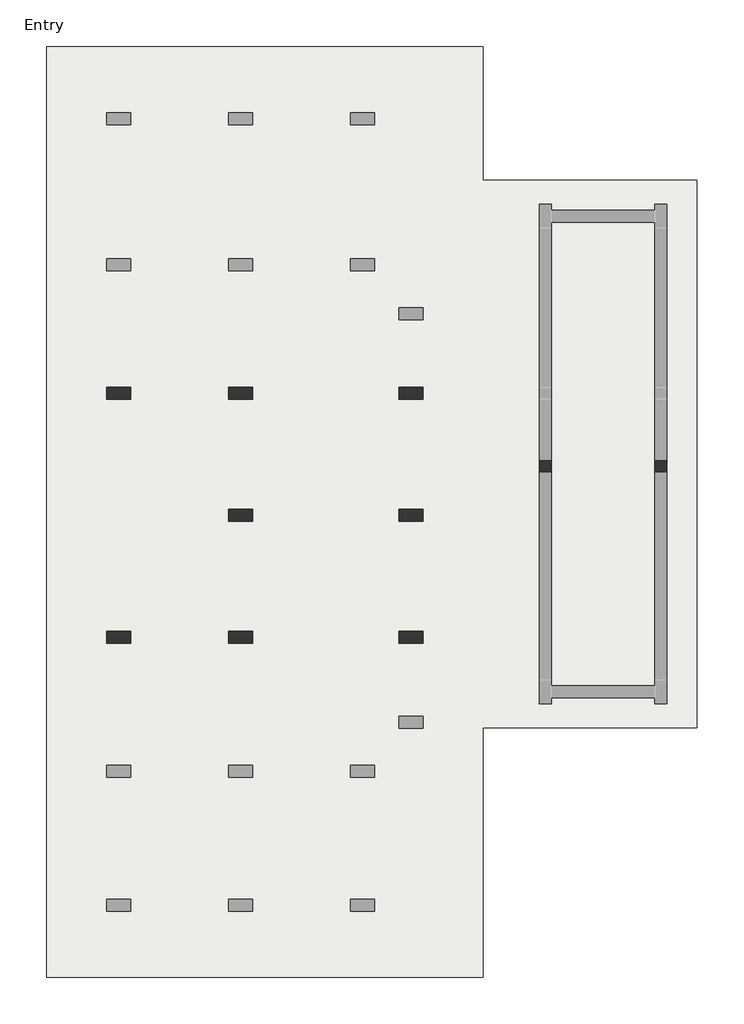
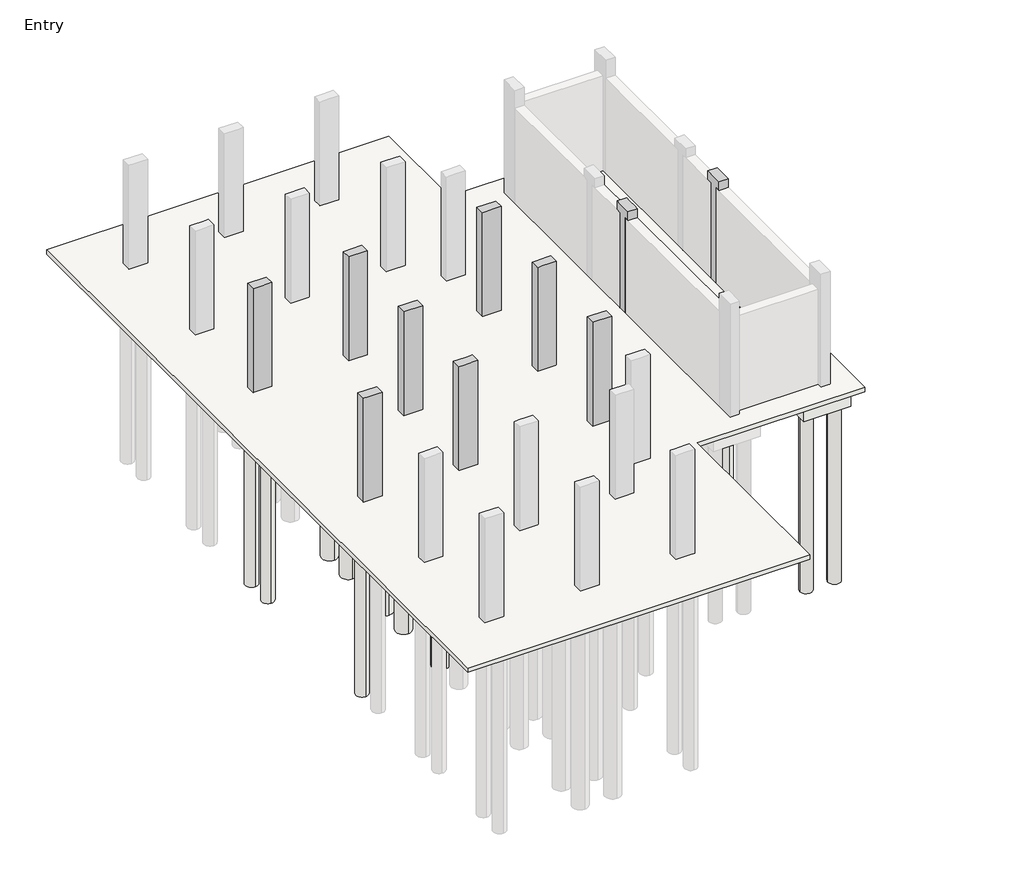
# One storey, part 2 of 3: 37 slabs, 10 columns, 3 footings.
"""IFC4 building model written with IfcOpenShell, lengths in millimetres."""

from ifc_helpers import new_model, si_unit, point, frame, frame_2d, origin, place, context, project, spatial, polyline, circle_curve, trimmed, segment, composite_curve, outline, extrude, faceted_brep, element, save

model = new_model("IFC4")

# Units and contexts
model_context = context("Model", 3, world=origin())
ifc_project = project(units=[si_unit("LENGTHUNIT", "METRE", prefix="MILLI")], contexts=[model_context])

# Site, building, storey
site = spatial("IfcSite", under=ifc_project)
building = spatial("IfcBuilding", under=site)
storey = spatial("IfcBuildingStorey", under=building, Name="Entry", Elevation=0.0)

# Columns
placement = place(None, origin())
element("IfcColumn", 1, ObjectType="M_Concrete-Rectangular-Column : 300 x 600mm", at=placement, inside=storey, context=model_context, shape_type="Brep", body=[
    faceted_brep([(-6997.5526929, 6449.19569, 0.0), (-6397.5526929, 6449.19569, 0.0), (-6397.5526929, 6149.19569, 0.0), (-6997.5526929, 6149.19569, 0.0), (-6997.5526929, 6449.19569, 3505.2), (-6397.5526929, 6449.19569, 3505.2), (-6397.5526929, 6449.19569, 2910.0), (-6997.5526929, 6449.19569, 2910.0), (-6397.5526929, 6149.19569, 3505.2), (-6397.5526929, 6149.19569, 2910.0), (-6997.5526929, 6149.19569, 3505.2), (-6997.5526929, 6149.19569, 2910.0)], [[[0, 1, 2, 3]], [[4, 5, 6, 1, 0, 7]], [[5, 8, 9, 2, 1, 6]], [[8, 10, 11, 3, 2, 9]], [[10, 4, 7, 0, 3, 11]], [[4, 10, 8, 5]]]),
])
element("IfcColumn", 2, ObjectType="M_Concrete-Rectangular-Column : 300 x 600mm", at=placement, inside=storey, context=model_context, shape_type="Brep", body=[
    faceted_brep([(-11264.7526929, 6449.19569, 0.0), (-10664.7526929, 6449.19569, 0.0), (-10664.7526929, 6149.19569, 0.0), (-11264.7526929, 6149.19569, 0.0), (-11264.7526929, 6449.19569, 3505.2), (-10664.7526929, 6449.19569, 3505.2), (-10664.7526929, 6449.19569, 2910.0), (-11264.7526929, 6449.19569, 2910.0), (-10664.7526929, 6149.19569, 3505.2), (-10664.7526929, 6149.19569, 2910.0), (-11264.7526929, 6149.19569, 3505.2), (-11264.7526929, 6149.19569, 2910.0)], [[[0, 1, 2, 3]], [[4, 5, 6, 1, 0, 7]], [[5, 8, 9, 2, 1, 6]], [[8, 10, 11, 3, 2, 9]], [[10, 4, 7, 0, 3, 11]], [[4, 10, 8, 5]]]),
])
element("IfcColumn", 3, ObjectType="M_Concrete-Rectangular-Column : 300 x 600mm", at=placement, inside=storey, context=model_context, shape_type="Brep", body=[
    faceted_brep([(-14312.7526929, 6449.19569, 0.0), (-13712.7526929, 6449.19569, 0.0), (-13712.7526929, 6149.19569, 0.0), (-14312.7526929, 6149.19569, 0.0), (-14312.7526929, 6449.19569, 3505.2), (-14162.7526929, 6449.19569, 3505.2), (-13862.7526929, 6449.19569, 3505.2), (-13712.7526929, 6449.19569, 3505.2), (-13712.7526929, 6449.19569, 2910.0), (-13712.7526929, 6149.19569, 3505.2), (-13712.7526929, 6149.19569, 2910.0), (-14012.7526929, 6149.19569, 3505.2), (-14312.7526929, 6149.19569, 3505.2)], [[[0, 1, 2, 3]], [[4, 5, 6, 7, 8, 1, 0]], [[7, 9, 10, 2, 1, 8]], [[9, 11, 12, 3, 2, 10]], [[12, 4, 0, 3]], [[4, 12, 11, 9, 7, 6, 5]]]),
])
element("IfcColumn", 4, ObjectType="M_Concrete-Rectangular-Column : 300 x 600mm", at=placement, inside=storey, context=model_context, shape_type="Brep", body=[
    faceted_brep([(-3194.7526929, 4320.39569, 0.0), (-3494.7526929, 4320.39569, 0.0), (-3494.7526929, 4620.39569, 0.0), (-3194.7526929, 4620.39569, 0.0), (-3494.7526929, 4320.39569, 2910.0), (-3494.7526929, 4320.39569, 3210.0), (-3494.7526929, 4170.39569, 3210.0), (-3494.7526929, 4170.39569, 3510.0), (-3494.7526929, 4320.39569, 3510.0), (-3494.7526929, 4620.39569, 3510.0), (-3494.7526929, 4770.39569, 3510.0), (-3494.7526929, 4770.39569, 3210.0), (-3494.7526929, 4620.39569, 3210.0), (-3494.7526929, 4620.39569, 2910.0), (-3194.7526929, 4770.39569, 3210.0), (-3194.7526929, 4770.39569, 3510.0), (-3194.7526929, 4320.39569, 3210.0), (-3194.7526929, 4320.39569, 2910.0), (-3194.7526929, 4620.39569, 2910.0), (-3194.7526929, 4620.39569, 3210.0), (-3194.7526929, 4620.39569, 3510.0), (-3194.7526929, 4320.39569, 3510.0), (-3194.7526929, 4170.39569, 3510.0), (-3194.7526929, 4170.39569, 3210.0)], [[[0, 1, 2, 3]], [[1, 4, 5, 6, 7, 8, 9, 10, 11, 12, 13, 2]], [[14, 11, 10, 15]], [[16, 17, 0, 3, 18, 19, 14, 15, 20, 21, 22, 23]], [[6, 23, 22, 7]], [[16, 5, 4, 1, 0, 17]], [[5, 16, 23, 6]], [[19, 12, 11, 14]], [[12, 19, 18, 3, 2, 13]], [[10, 9, 8, 7, 22, 21, 20, 15]]]),
])
element("IfcColumn", 5, ObjectType="M_Concrete-Rectangular-Column : 300 x 600mm", at=placement, inside=storey, context=model_context, shape_type="SweptSolid", body=[
    extrude(outline(polyline([(4620.39569, 3210.0), (4620.39569, 0.0), (4320.39569, 0.0), (4320.39569, 3210.0), (4170.39569, 3210.0), (4170.39569, 3510.0), (4770.39569, 3510.0), (4770.39569, 3210.0), (4620.39569, 3210.0)])), frame((-599.1526929, 0.0, 0.0), z_axis=(1.0, 0.0, 0.0), x_axis=(0.0, 1.0, 0.0)), (0.0, 0.0, 1.0), 300.0),
])
element("IfcColumn", 6, ObjectType="M_Concrete-Rectangular-Column : 300 x 600mm", at=placement, inside=storey, context=model_context, shape_type="Brep", body=[
    faceted_brep([(-6997.5526929, 3401.19569, 0.0), (-6397.5526929, 3401.19569, 0.0), (-6397.5526929, 3101.19569, 0.0), (-6997.5526929, 3101.19569, 0.0), (-6997.5526929, 3401.19569, 3505.2), (-6847.5526929, 3401.19569, 3505.2), (-6547.5526929, 3401.19569, 3505.2), (-6397.5526929, 3401.19569, 3505.2), (-6397.5526929, 3101.19569, 3505.2), (-6547.5526929, 3101.19569, 3505.2), (-6847.5526929, 3101.19569, 3505.2), (-6997.5526929, 3101.19569, 3505.2)], [[[0, 1, 2, 3]], [[4, 5, 6, 7, 1, 0]], [[7, 8, 2, 1]], [[8, 9, 10, 11, 3, 2]], [[11, 4, 0, 3]], [[4, 11, 10, 9, 8, 7, 6, 5]]]),
])
element("IfcColumn", 7, ObjectType="M_Concrete-Rectangular-Column : 300 x 600mm", at=placement, inside=storey, context=model_context, shape_type="Brep", body=[
    faceted_brep([(-11264.7526929, 3401.19569, 0.0), (-10664.7526929, 3401.19569, 0.0), (-10664.7526929, 3101.19569, 0.0), (-11264.7526929, 3101.19569, 0.0), (-11264.7526929, 3401.19569, 3505.2), (-11114.7526929, 3401.19569, 3505.2), (-10814.7526929, 3401.19569, 3505.2), (-10664.7526929, 3401.19569, 3505.2), (-10664.7526929, 3101.19569, 3505.2), (-10814.7526929, 3101.19569, 3505.2), (-11114.7526929, 3101.19569, 3505.2), (-11264.7526929, 3101.19569, 3505.2)], [[[0, 1, 2, 3]], [[4, 5, 6, 7, 1, 0]], [[7, 8, 2, 1]], [[8, 9, 10, 11, 3, 2]], [[11, 4, 0, 3]], [[4, 11, 10, 9, 8, 7, 6, 5]]]),
])
element("IfcColumn", 8, ObjectType="M_Concrete-Rectangular-Column : 300 x 600mm", at=placement, inside=storey, context=model_context, shape_type="Brep", body=[
    faceted_brep([(-14312.7526929, 353.19569, 0.0), (-13712.7526929, 353.19569, 0.0), (-13712.7526929, 53.19569, 0.0), (-14312.7526929, 53.19569, 0.0), (-14312.7526929, 353.19569, 3505.2), (-14012.7526929, 353.19569, 3505.2), (-13712.7526929, 353.19569, 3505.2), (-13712.7526929, 353.19569, 2910.0), (-13712.7526929, 53.19569, 3505.2), (-13712.7526929, 53.19569, 2910.0), (-13862.7526929, 53.19569, 3505.2), (-14162.7526929, 53.19569, 3505.2), (-14312.7526929, 53.19569, 3505.2)], [[[0, 1, 2, 3]], [[4, 5, 6, 7, 1, 0]], [[6, 8, 9, 2, 1, 7]], [[8, 10, 11, 12, 3, 2, 9]], [[12, 4, 0, 3]], [[4, 12, 11, 10, 8, 6, 5]]]),
])
element("IfcColumn", 9, ObjectType="M_Concrete-Rectangular-Column : 300 x 600mm", at=placement, inside=storey, context=model_context, shape_type="Brep", body=[
    faceted_brep([(-11264.7526929, 353.19569, 0.0), (-10664.7526929, 353.19569, 0.0), (-10664.7526929, 53.19569, 0.0), (-11264.7526929, 53.19569, 0.0), (-11264.7526929, 353.19569, 3505.2), (-11114.7526929, 353.19569, 3505.2), (-10814.7526929, 353.19569, 3505.2), (-10664.7526929, 353.19569, 3505.2), (-10664.7526929, 353.19569, 2910.0), (-11264.7526929, 353.19569, 2910.0), (-10664.7526929, 53.19569, 3505.2), (-10664.7526929, 53.19569, 2910.0), (-10814.7526929, 53.19569, 3505.2), (-11114.7526929, 53.19569, 3505.2), (-11264.7526929, 53.19569, 3505.2), (-11264.7526929, 53.19569, 2910.0)], [[[0, 1, 2, 3]], [[4, 5, 6, 7, 8, 1, 0, 9]], [[7, 10, 11, 2, 1, 8]], [[10, 12, 13, 14, 15, 3, 2, 11]], [[14, 4, 9, 0, 3, 15]], [[4, 14, 13, 12, 10, 7, 6, 5]]]),
])
element("IfcColumn", 10, ObjectType="M_Concrete-Rectangular-Column : 300 x 600mm", at=placement, inside=storey, context=model_context, shape_type="Brep", body=[
    faceted_brep([(-6997.5526929, 353.19569, 0.0), (-6397.5526929, 353.19569, 0.0), (-6397.5526929, 53.19569, 0.0), (-6997.5526929, 53.19569, 0.0), (-6997.5526929, 353.19569, 3505.2), (-6847.5526929, 353.19569, 3505.2), (-6547.5526929, 353.19569, 3505.2), (-6397.5526929, 353.19569, 3505.2), (-6997.5526929, 353.19569, 2910.0), (-6397.5526929, 53.19569, 3505.2), (-6547.5526929, 53.19569, 3505.2), (-6847.5526929, 53.19569, 3505.2), (-6997.5526929, 53.19569, 3505.2), (-6997.5526929, 53.19569, 2910.0)], [[[0, 1, 2, 3]], [[4, 5, 6, 7, 1, 0, 8]], [[7, 9, 2, 1]], [[9, 10, 11, 12, 13, 3, 2]], [[12, 4, 8, 0, 3, 13]], [[4, 12, 11, 10, 9, 7, 6, 5]]]),
])

# Footings
element("IfcFooting", 11, ObjectType="Bearing Footing - 900 x 300", at=placement, inside=storey, context=model_context, shape_type="SweptSolid", body=[
    extrude(outline(polyline([(-3794.7526929, 4620.39569), (-3794.7526929, 6149.19569), (-3744.7526929, 6149.19569), (-3744.7526929, 5549.19569), (-2944.7526929, 5549.19569), (-2944.7526929, 6149.19569), (-2894.7526929, 6149.19569), (-2894.7526929, 4620.39569), (-2944.7526929, 4620.39569), (-2944.7526929, 5220.39569), (-3744.7526929, 5220.39569), (-3744.7526929, 4620.39569), (-3794.7526929, 4620.39569)])), frame((0.0, 0.0, -300.0), z_axis=(0.0, 0.0, 1.0), x_axis=(1.0, 0.0, 0.0)), (0.0, 0.0, 1.0), 150.0),
])
element("IfcFooting", 12, ObjectType="Bearing Footing - 900 x 300", at=placement, inside=storey, context=model_context, shape_type="Brep", body=[
    faceted_brep([(-3744.7526929, 4320.39569, -300.0), (-3794.7526929, 4320.39569, -300.0), (-3794.7526929, 4320.39569, -150.0), (-3744.7526929, 4320.39569, -150.0), (-2894.7526929, 4320.39569, -300.0), (-2944.7526929, 4320.39569, -300.0), (-2944.7526929, 4320.39569, -150.0), (-2894.7526929, 4320.39569, -150.0), (-3794.7526929, -768.40431, -300.0), (-3794.7526929, -768.40431, -150.0), (-3744.7526929, 3720.39569, -300.0), (-2944.7526929, 3720.39569, -300.0), (-2894.7526929, -718.40431, -300.0), (-2894.7526929, -768.40431, -300.0), (-2894.7526929, -718.40431, -150.0), (-2894.7526929, -768.40431, -150.0), (-3744.7526929, 3720.39569, -150.0), (-2944.7526929, 3720.39569, -150.0)], [[[0, 1, 2, 3]], [[4, 5, 6, 7]], [[1, 8, 9, 2]], [[1, 0, 10, 11, 5, 4, 12, 13, 8]], [[13, 12, 4, 7, 14, 15]], [[10, 0, 3, 16]], [[11, 10, 16, 17]], [[5, 11, 17, 6]], [[8, 13, 15, 9]], [[3, 2, 9, 15, 14, 7, 6, 17, 16]]]),
])
element("IfcFooting", 13, ObjectType="Bearing Footing - 900 x 300", at=placement, inside=storey, context=model_context, shape_type="SweptSolid", body=[
    extrude(outline(polyline([(-899.1526929, 4320.39569), (-849.1526929, 4320.39569), (-849.1526929, 3720.39569), (-49.1526929, 3720.39569), (-49.1526929, 4320.39569), (0.8473071, 4320.39569), (0.8473071, -768.40431), (-599.1526929, -768.40431), (-599.1526929, -718.40431), (-899.1526929, -718.40431), (-899.1526929, 4320.39569)])), frame((0.0, 0.0, -300.0), z_axis=(0.0, 0.0, 1.0), x_axis=(1.0, 0.0, 0.0)), (0.0, 0.0, 1.0), 150.0),
])

# Slabs
element("IfcSlab", 14, ObjectType="150mm Foundation Slab", at=placement, inside=storey, context=model_context, shape_type="SweptSolid", body=[
    extrude(outline(polyline([(-4897.5526929, 14957.19569), (-4897.5526929, 11618.79569), (450.8473071, 11618.79569), (450.8473071, -2068.40431), (-4897.5526929, -2068.40431), (-4897.5526929, -8302.40431), (-15812.7526929, -8302.40431), (-15812.7526929, 14957.19569), (-4897.5526929, 14957.19569)])), frame((0.0, 0.0, -150.0), z_axis=(0.0, 0.0, 1.0), x_axis=(1.0, 0.0, 0.0)), (0.0, 0.0, 1.0), 150.0),
])
element("IfcSlab", 15, ObjectType="M_Pile Cap-2 Pile : 800 x 1500 x 900mm", at=placement, inside=storey, context=model_context, shape_type="SweptSolid", body=[
    extrude(outline(polyline([(-14412.7526929, 7049.19569), (-13612.7526929, 7049.19569), (-13612.7526929, 5549.19569), (-14412.7526929, 5549.19569), (-14412.7526929, 7049.19569)])), frame((0.0, 0.0, -900.0), z_axis=(0.0, 0.0, 1.0), x_axis=(1.0, 0.0, 0.0)), (0.0, 0.0, 1.0), 750.0),
])
element("IfcSlab", 16, ObjectType="M_Pile Cap-2 Pile : 800 x 1500 x 900mm", at=placement, inside=storey, context=model_context, shape_type="SweptSolid", body=[
    extrude(outline(polyline([(-7097.5526929, 7049.19569), (-6297.5526929, 7049.19569), (-6297.5526929, 5549.19569), (-7097.5526929, 5549.19569), (-7097.5526929, 7049.19569)])), frame((0.0, 0.0, -900.0), z_axis=(0.0, 0.0, 1.0), x_axis=(1.0, 0.0, 0.0)), (0.0, 0.0, 1.0), 750.0),
])
element("IfcSlab", 17, ObjectType="M_Pile Cap-2 Pile : 800 x 1500 x 900mm", at=placement, inside=storey, context=model_context, shape_type="SweptSolid", body=[
    extrude(outline(polyline([(-7097.5526929, 4001.19569), (-6297.5526929, 4001.19569), (-6297.5526929, 2501.19569), (-7097.5526929, 2501.19569), (-7097.5526929, 4001.19569)])), frame((0.0, 0.0, -900.0), z_axis=(0.0, 0.0, 1.0), x_axis=(1.0, 0.0, 0.0)), (0.0, 0.0, 1.0), 750.0),
])
element("IfcSlab", 18, ObjectType="M_Pile Cap-2 Pile : 800 x 1500 x 900mm", at=placement, inside=storey, context=model_context, shape_type="SweptSolid", body=[
    extrude(outline(polyline([(-7097.5526929, 953.19569), (-6297.5526929, 953.19569), (-6297.5526929, -546.80431), (-7097.5526929, -546.80431), (-7097.5526929, 953.19569)])), frame((0.0, 0.0, -900.0), z_axis=(0.0, 0.0, 1.0), x_axis=(1.0, 0.0, 0.0)), (0.0, 0.0, 1.0), 750.0),
])
element("IfcSlab", 19, ObjectType="M_Pile Cap-2 Pile : 800 x 1500 x 900mm", at=placement, inside=storey, context=model_context, shape_type="SweptSolid", body=[
    extrude(outline(polyline([(-14412.7526929, 953.19569), (-13612.7526929, 953.19569), (-13612.7526929, -546.80431), (-14412.7526929, -546.80431), (-14412.7526929, 953.19569)])), frame((0.0, 0.0, -900.0), z_axis=(0.0, 0.0, 1.0), x_axis=(1.0, 0.0, 0.0)), (0.0, 0.0, 1.0), 750.0),
])
element("IfcSlab", 20, ObjectType="M_Pile Cap-2 Pile : 800 x 1500 x 900mm", at=placement, inside=storey, context=model_context, shape_type="Brep", body=[
    faceted_brep([(-3744.7526929, 5220.39569, -900.0), (-2944.7526929, 5220.39569, -900.0), (-2944.7526929, 3720.39569, -900.0), (-3744.7526929, 3720.39569, -900.0), (-3744.7526929, 3720.39569, -300.0), (-3744.7526929, 3720.39569, -150.0), (-3744.7526929, 4320.39569, -150.0), (-3744.7526929, 4620.39569, -150.0), (-3744.7526929, 5220.39569, -150.0), (-3744.7526929, 5220.39569, -300.0), (-2944.7526929, 3720.39569, -300.0), (-2944.7526929, 3720.39569, -150.0), (-2944.7526929, 5220.39569, -300.0), (-2944.7526929, 5220.39569, -150.0), (-2944.7526929, 4620.39569, -150.0), (-2944.7526929, 4320.39569, -150.0)], [[[0, 1, 2, 3]], [[0, 3, 4, 5, 6, 7, 8, 9]], [[3, 2, 10, 11, 5, 4]], [[2, 1, 12, 13, 14, 15, 11, 10]], [[1, 0, 9, 8, 13, 12]], [[8, 7, 6, 5, 11, 15, 14, 13]]]),
])
element("IfcSlab", 21, ObjectType="M_Pile Cap-2 Pile : 800 x 1500 x 900mm", at=placement, inside=storey, context=model_context, shape_type="Brep", body=[
    faceted_brep([(-849.1526929, 5220.39569, -900.0), (-49.1526929, 5220.39569, -900.0), (-49.1526929, 3720.39569, -900.0), (-849.1526929, 3720.39569, -900.0), (-849.1526929, 3720.39569, -300.0), (-849.1526929, 3720.39569, -150.0), (-849.1526929, 4320.39569, -150.0), (-849.1526929, 4620.39569, -150.0), (-849.1526929, 5220.39569, -150.0), (-849.1526929, 5220.39569, -300.0), (-49.1526929, 3720.39569, -300.0), (-49.1526929, 3720.39569, -150.0), (-49.1526929, 5220.39569, -300.0), (-49.1526929, 5220.39569, -150.0), (-49.1526929, 4620.39569, -150.0), (-49.1526929, 4320.39569, -150.0)], [[[0, 1, 2, 3]], [[0, 3, 4, 5, 6, 7, 8, 9]], [[3, 2, 10, 11, 5, 4]], [[2, 1, 12, 13, 14, 15, 11, 10]], [[1, 0, 9, 8, 13, 12]], [[8, 7, 6, 5, 11, 15, 14, 13]]]),
])
element("IfcSlab", 22, ObjectType="M_Pile Cap-2 Pile : 800 x 1500 x 900mm", at=placement, inside=storey, context=model_context, shape_type="Brep", body=[
    faceted_brep([(-1199.1526929, -1568.40431, -900.0), (-1199.1526929, -768.40431, -900.0), (300.8473071, -768.40431, -900.0), (300.8473071, -1568.40431, -900.0), (300.8473071, -1568.40431, -150.0), (-599.1526929, -1568.40431, -150.0), (-1199.1526929, -1568.40431, -150.0), (-1199.1526929, -1568.40431, -300.0), (300.8473071, -768.40431, -150.0), (-1199.1526929, -768.40431, -300.0), (-1199.1526929, -768.40431, -150.0), (-599.1526929, -768.40431, -150.0), (0.8473071, -768.40431, -150.0)], [[[0, 1, 2, 3]], [[0, 3, 4, 5, 6, 7]], [[3, 2, 8, 4]], [[2, 1, 9, 10, 11, 12, 8]], [[1, 0, 7, 6, 10, 9]], [[6, 5, 4, 8, 12, 11, 10]]]),
])
element("IfcSlab", 23, ObjectType="M_Pile Cap-4 Pile : 1800 x 1800 x 900mm", at=placement, inside=storey, context=model_context, shape_type="SweptSolid", body=[
    extrude(outline(polyline([(-11864.7526929, 7199.19569), (-10064.7526929, 7199.19569), (-10064.7526929, 5399.19569), (-11864.7526929, 5399.19569), (-11864.7526929, 7199.19569)])), frame((0.0, 0.0, -900.0), z_axis=(0.0, 0.0, 1.0), x_axis=(1.0, 0.0, 0.0)), (0.0, 0.0, 1.0), 750.0),
])
element("IfcSlab", 24, ObjectType="M_Pile Cap-4 Pile : 1800 x 1800 x 900mm", at=placement, inside=storey, context=model_context, shape_type="SweptSolid", body=[
    extrude(outline(polyline([(-11864.7526929, 4151.19569), (-10064.7526929, 4151.19569), (-10064.7526929, 2351.19569), (-11864.7526929, 2351.19569), (-11864.7526929, 4151.19569)])), frame((0.0, 0.0, -900.0), z_axis=(0.0, 0.0, 1.0), x_axis=(1.0, 0.0, 0.0)), (0.0, 0.0, 1.0), 750.0),
])
element("IfcSlab", 25, ObjectType="M_Pile Cap-4 Pile : 1800 x 1800 x 900mm", at=placement, inside=storey, context=model_context, shape_type="SweptSolid", body=[
    extrude(outline(polyline([(-11864.7526929, 1103.19569), (-10064.7526929, 1103.19569), (-10064.7526929, -696.80431), (-11864.7526929, -696.80431), (-11864.7526929, 1103.19569)])), frame((0.0, 0.0, -900.0), z_axis=(0.0, 0.0, 1.0), x_axis=(1.0, 0.0, 0.0)), (0.0, 0.0, 1.0), 750.0),
])
element("IfcSlab", 26, ObjectType="M_Pile-Steel Pipe : 400mm Diameter", at=placement, inside=storey, context=model_context, shape_type="SweptSolid", body=[
    extrude(outline(composite_curve([segment(trimmed(circle_curve(frame_2d((-14012.7526929, 5849.19569)), 200.0), [point((-14012.7526929, 5649.19569))], [point((-14012.7526929, 6049.19569))], False, "CARTESIAN"), True, "CONTINUOUS"), segment(trimmed(circle_curve(frame_2d((-14012.7526929, 5849.19569)), 200.0), [point((-14012.7526929, 6049.19569))], [point((-14012.7526929, 5649.19569))], False, "CARTESIAN"), True, "CONTINUOUS")], self_intersect=False)), frame((0.0, 0.0, -6900.0), z_axis=(0.0, 0.0, 1.0), x_axis=(1.0, 0.0, 0.0)), (0.0, 0.0, 1.0), 6000.0),
])
element("IfcSlab", 27, ObjectType="M_Pile-Steel Pipe : 400mm Diameter", at=placement, inside=storey, context=model_context, shape_type="SweptSolid", body=[
    extrude(outline(composite_curve([segment(trimmed(circle_curve(frame_2d((-14012.7526929, 6749.19569)), 200.0), [point((-14012.7526929, 6549.19569))], [point((-14012.7526929, 6949.19569))], False, "CARTESIAN"), True, "CONTINUOUS"), segment(trimmed(circle_curve(frame_2d((-14012.7526929, 6749.19569)), 200.0), [point((-14012.7526929, 6949.19569))], [point((-14012.7526929, 6549.19569))], False, "CARTESIAN"), True, "CONTINUOUS")], self_intersect=False)), frame((0.0, 0.0, -6900.0), z_axis=(0.0, 0.0, 1.0), x_axis=(1.0, 0.0, 0.0)), (0.0, 0.0, 1.0), 6000.0),
])
element("IfcSlab", 28, ObjectType="M_Pile-Steel Pipe : 400mm Diameter", at=placement, inside=storey, context=model_context, shape_type="SweptSolid", body=[
    extrude(outline(composite_curve([segment(trimmed(circle_curve(frame_2d((-6697.5526929, 5849.19569)), 200.0), [point((-6697.5526929, 5649.19569))], [point((-6697.5526929, 6049.19569))], False, "CARTESIAN"), True, "CONTINUOUS"), segment(trimmed(circle_curve(frame_2d((-6697.5526929, 5849.19569)), 200.0), [point((-6697.5526929, 6049.19569))], [point((-6697.5526929, 5649.19569))], False, "CARTESIAN"), True, "CONTINUOUS")], self_intersect=False)), frame((0.0, 0.0, -6900.0), z_axis=(0.0, 0.0, 1.0), x_axis=(1.0, 0.0, 0.0)), (0.0, 0.0, 1.0), 6000.0),
])
element("IfcSlab", 29, ObjectType="M_Pile-Steel Pipe : 400mm Diameter", at=placement, inside=storey, context=model_context, shape_type="SweptSolid", body=[
    extrude(outline(composite_curve([segment(trimmed(circle_curve(frame_2d((-6697.5526929, 6749.19569)), 200.0), [point((-6697.5526929, 6549.19569))], [point((-6697.5526929, 6949.19569))], False, "CARTESIAN"), True, "CONTINUOUS"), segment(trimmed(circle_curve(frame_2d((-6697.5526929, 6749.19569)), 200.0), [point((-6697.5526929, 6949.19569))], [point((-6697.5526929, 6549.19569))], False, "CARTESIAN"), True, "CONTINUOUS")], self_intersect=False)), frame((0.0, 0.0, -6900.0), z_axis=(0.0, 0.0, 1.0), x_axis=(1.0, 0.0, 0.0)), (0.0, 0.0, 1.0), 6000.0),
])
element("IfcSlab", 30, ObjectType="M_Pile-Steel Pipe : 400mm Diameter", at=placement, inside=storey, context=model_context, shape_type="SweptSolid", body=[
    extrude(outline(composite_curve([segment(trimmed(circle_curve(frame_2d((-6697.5526929, 2801.19569)), 200.0), [point((-6697.5526929, 2601.19569))], [point((-6697.5526929, 3001.19569))], False, "CARTESIAN"), True, "CONTINUOUS"), segment(trimmed(circle_curve(frame_2d((-6697.5526929, 2801.19569)), 200.0), [point((-6697.5526929, 3001.19569))], [point((-6697.5526929, 2601.19569))], False, "CARTESIAN"), True, "CONTINUOUS")], self_intersect=False)), frame((0.0, 0.0, -6900.0), z_axis=(0.0, 0.0, 1.0), x_axis=(1.0, 0.0, 0.0)), (0.0, 0.0, 1.0), 6000.0),
])
element("IfcSlab", 31, ObjectType="M_Pile-Steel Pipe : 400mm Diameter", at=placement, inside=storey, context=model_context, shape_type="SweptSolid", body=[
    extrude(outline(composite_curve([segment(trimmed(circle_curve(frame_2d((-6697.5526929, 3701.19569)), 200.0), [point((-6697.5526929, 3501.19569))], [point((-6697.5526929, 3901.19569))], False, "CARTESIAN"), True, "CONTINUOUS"), segment(trimmed(circle_curve(frame_2d((-6697.5526929, 3701.19569)), 200.0), [point((-6697.5526929, 3901.19569))], [point((-6697.5526929, 3501.19569))], False, "CARTESIAN"), True, "CONTINUOUS")], self_intersect=False)), frame((0.0, 0.0, -6900.0), z_axis=(0.0, 0.0, 1.0), x_axis=(1.0, 0.0, 0.0)), (0.0, 0.0, 1.0), 6000.0),
])
element("IfcSlab", 32, ObjectType="M_Pile-Steel Pipe : 400mm Diameter", at=placement, inside=storey, context=model_context, shape_type="SweptSolid", body=[
    extrude(outline(composite_curve([segment(trimmed(circle_curve(frame_2d((-6697.5526929, 653.19569)), 200.0), [point((-6697.5526929, 453.19569))], [point((-6697.5526929, 853.19569))], False, "CARTESIAN"), True, "CONTINUOUS"), segment(trimmed(circle_curve(frame_2d((-6697.5526929, 653.19569)), 200.0), [point((-6697.5526929, 853.19569))], [point((-6697.5526929, 453.19569))], False, "CARTESIAN"), True, "CONTINUOUS")], self_intersect=False)), frame((0.0, 0.0, -6900.0), z_axis=(0.0, 0.0, 1.0), x_axis=(1.0, 0.0, 0.0)), (0.0, 0.0, 1.0), 6000.0),
])
element("IfcSlab", 33, ObjectType="M_Pile-Steel Pipe : 400mm Diameter", at=placement, inside=storey, context=model_context, shape_type="SweptSolid", body=[
    extrude(outline(composite_curve([segment(trimmed(circle_curve(frame_2d((-14012.7526929, 653.19569)), 200.0), [point((-14012.7526929, 453.19569))], [point((-14012.7526929, 853.19569))], False, "CARTESIAN"), True, "CONTINUOUS"), segment(trimmed(circle_curve(frame_2d((-14012.7526929, 653.19569)), 200.0), [point((-14012.7526929, 853.19569))], [point((-14012.7526929, 453.19569))], False, "CARTESIAN"), True, "CONTINUOUS")], self_intersect=False)), frame((0.0, 0.0, -6900.0), z_axis=(0.0, 0.0, 1.0), x_axis=(1.0, 0.0, 0.0)), (0.0, 0.0, 1.0), 6000.0),
])
element("IfcSlab", 34, ObjectType="M_Pile-Steel Pipe : 400mm Diameter", at=placement, inside=storey, context=model_context, shape_type="SweptSolid", body=[
    extrude(outline(composite_curve([segment(trimmed(circle_curve(frame_2d((-3344.7526929, 5849.19569)), 200.0), [point((-3344.7526929, 5649.19569))], [point((-3344.7526929, 6049.19569))], False, "CARTESIAN"), True, "CONTINUOUS"), segment(trimmed(circle_curve(frame_2d((-3344.7526929, 5849.19569)), 200.0), [point((-3344.7526929, 6049.19569))], [point((-3344.7526929, 5649.19569))], False, "CARTESIAN"), True, "CONTINUOUS")], self_intersect=False)), frame((0.0, 0.0, -6900.0), z_axis=(0.0, 0.0, 1.0), x_axis=(1.0, 0.0, 0.0)), (0.0, 0.0, 1.0), 6000.0),
])
element("IfcSlab", 35, ObjectType="M_Pile-Steel Pipe : 400mm Diameter", at=placement, inside=storey, context=model_context, shape_type="SweptSolid", body=[
    extrude(outline(composite_curve([segment(trimmed(circle_curve(frame_2d((-3344.7526929, 4020.39569)), 200.0), [point((-3344.7526929, 3820.39569))], [point((-3344.7526929, 4220.39569))], False, "CARTESIAN"), True, "CONTINUOUS"), segment(trimmed(circle_curve(frame_2d((-3344.7526929, 4020.39569)), 200.0), [point((-3344.7526929, 4220.39569))], [point((-3344.7526929, 3820.39569))], False, "CARTESIAN"), True, "CONTINUOUS")], self_intersect=False)), frame((0.0, 0.0, -6900.0), z_axis=(0.0, 0.0, 1.0), x_axis=(1.0, 0.0, 0.0)), (0.0, 0.0, 1.0), 6000.0),
])
element("IfcSlab", 36, ObjectType="M_Pile-Steel Pipe : 400mm Diameter", at=placement, inside=storey, context=model_context, shape_type="SweptSolid", body=[
    extrude(outline(composite_curve([segment(trimmed(circle_curve(frame_2d((-3344.7526929, 4920.39569)), 200.0), [point((-3344.7526929, 4720.39569))], [point((-3344.7526929, 5120.39569))], False, "CARTESIAN"), True, "CONTINUOUS"), segment(trimmed(circle_curve(frame_2d((-3344.7526929, 4920.39569)), 200.0), [point((-3344.7526929, 5120.39569))], [point((-3344.7526929, 4720.39569))], False, "CARTESIAN"), True, "CONTINUOUS")], self_intersect=False)), frame((0.0, 0.0, -6900.0), z_axis=(0.0, 0.0, 1.0), x_axis=(1.0, 0.0, 0.0)), (0.0, 0.0, 1.0), 6000.0),
])
element("IfcSlab", 37, ObjectType="M_Pile-Steel Pipe : 400mm Diameter", at=placement, inside=storey, context=model_context, shape_type="SweptSolid", body=[
    extrude(outline(composite_curve([segment(trimmed(circle_curve(frame_2d((-449.1526929, 4020.39569)), 200.0), [point((-449.1526929, 3820.39569))], [point((-449.1526929, 4220.39569))], False, "CARTESIAN"), True, "CONTINUOUS"), segment(trimmed(circle_curve(frame_2d((-449.1526929, 4020.39569)), 200.0), [point((-449.1526929, 4220.39569))], [point((-449.1526929, 3820.39569))], False, "CARTESIAN"), True, "CONTINUOUS")], self_intersect=False)), frame((0.0, 0.0, -6900.0), z_axis=(0.0, 0.0, 1.0), x_axis=(1.0, 0.0, 0.0)), (0.0, 0.0, 1.0), 6000.0),
])
element("IfcSlab", 38, ObjectType="M_Pile-Steel Pipe : 400mm Diameter", at=placement, inside=storey, context=model_context, shape_type="SweptSolid", body=[
    extrude(outline(composite_curve([segment(trimmed(circle_curve(frame_2d((0.8473071, -1168.40431)), 200.0), [point((200.8473071, -1168.40431))], [point((-199.1526929, -1168.40431))], False, "CARTESIAN"), True, "CONTINUOUS"), segment(trimmed(circle_curve(frame_2d((0.8473071, -1168.40431)), 200.0), [point((-199.1526929, -1168.40431))], [point((200.8473071, -1168.40431))], False, "CARTESIAN"), True, "CONTINUOUS")], self_intersect=False)), frame((0.0, 0.0, -6900.0), z_axis=(0.0, 0.0, 1.0), x_axis=(1.0, 0.0, 0.0)), (0.0, 0.0, 1.0), 6000.0),
])
element("IfcSlab", 39, ObjectType="M_Pile-Steel Pipe : 400mm Diameter", at=placement, inside=storey, context=model_context, shape_type="SweptSolid", body=[
    extrude(outline(composite_curve([segment(trimmed(circle_curve(frame_2d((-899.1526929, -1168.40431)), 200.0), [point((-699.1526929, -1168.40431))], [point((-1099.1526929, -1168.40431))], False, "CARTESIAN"), True, "CONTINUOUS"), segment(trimmed(circle_curve(frame_2d((-899.1526929, -1168.40431)), 200.0), [point((-1099.1526929, -1168.40431))], [point((-699.1526929, -1168.40431))], False, "CARTESIAN"), True, "CONTINUOUS")], self_intersect=False)), frame((0.0, 0.0, -6900.0), z_axis=(0.0, 0.0, 1.0), x_axis=(1.0, 0.0, 0.0)), (0.0, 0.0, 1.0), 6000.0),
])
element("IfcSlab", 40, ObjectType="M_Pile-Steel Pipe : 400mm Diameter", at=placement, inside=storey, context=model_context, shape_type="SweptSolid", body=[
    extrude(outline(composite_curve([segment(trimmed(circle_curve(frame_2d((-6697.5526929, 7830.39569)), 200.0), [point((-6697.5526929, 7630.39569))], [point((-6697.5526929, 8030.39569))], False, "CARTESIAN"), True, "CONTINUOUS"), segment(trimmed(circle_curve(frame_2d((-6697.5526929, 7830.39569)), 200.0), [point((-6697.5526929, 8030.39569))], [point((-6697.5526929, 7630.39569))], False, "CARTESIAN"), True, "CONTINUOUS")], self_intersect=False)), frame((0.0, 0.0, -6900.0), z_axis=(0.0, 0.0, 1.0), x_axis=(1.0, 0.0, 0.0)), (0.0, 0.0, 1.0), 6000.0),
])
element("IfcSlab", 41, ObjectType="M_Pile-Steel Pipe : 500mm Diameter", at=placement, inside=storey, context=model_context, shape_type="SweptSolid", body=[
    extrude(outline(composite_curve([segment(trimmed(circle_curve(frame_2d((-10444.7526929, 5779.19569)), 250.0), [point((-10444.7526929, 5529.19569))], [point((-10444.7526929, 6029.19569))], False, "CARTESIAN"), True, "CONTINUOUS"), segment(trimmed(circle_curve(frame_2d((-10444.7526929, 5779.19569)), 250.0), [point((-10444.7526929, 6029.19569))], [point((-10444.7526929, 5529.19569))], False, "CARTESIAN"), True, "CONTINUOUS")], self_intersect=False)), frame((0.0, 0.0, -6900.0), z_axis=(0.0, 0.0, 1.0), x_axis=(1.0, 0.0, 0.0)), (0.0, 0.0, 1.0), 6000.0),
])
element("IfcSlab", 42, ObjectType="M_Pile-Steel Pipe : 500mm Diameter", at=placement, inside=storey, context=model_context, shape_type="SweptSolid", body=[
    extrude(outline(composite_curve([segment(trimmed(circle_curve(frame_2d((-10444.7526929, 6819.19569)), 250.0), [point((-10444.7526929, 6569.19569))], [point((-10444.7526929, 7069.19569))], False, "CARTESIAN"), True, "CONTINUOUS"), segment(trimmed(circle_curve(frame_2d((-10444.7526929, 6819.19569)), 250.0), [point((-10444.7526929, 7069.19569))], [point((-10444.7526929, 6569.19569))], False, "CARTESIAN"), True, "CONTINUOUS")], self_intersect=False)), frame((0.0, 0.0, -6900.0), z_axis=(0.0, 0.0, 1.0), x_axis=(1.0, 0.0, 0.0)), (0.0, 0.0, 1.0), 6000.0),
])
element("IfcSlab", 43, ObjectType="M_Pile-Steel Pipe : 500mm Diameter", at=placement, inside=storey, context=model_context, shape_type="SweptSolid", body=[
    extrude(outline(composite_curve([segment(trimmed(circle_curve(frame_2d((-11484.7526929, 6819.19569)), 250.0), [point((-11484.7526929, 6569.19569))], [point((-11484.7526929, 7069.19569))], False, "CARTESIAN"), True, "CONTINUOUS"), segment(trimmed(circle_curve(frame_2d((-11484.7526929, 6819.19569)), 250.0), [point((-11484.7526929, 7069.19569))], [point((-11484.7526929, 6569.19569))], False, "CARTESIAN"), True, "CONTINUOUS")], self_intersect=False)), frame((0.0, 0.0, -6900.0), z_axis=(0.0, 0.0, 1.0), x_axis=(1.0, 0.0, 0.0)), (0.0, 0.0, 1.0), 6000.0),
])
element("IfcSlab", 44, ObjectType="M_Pile-Steel Pipe : 500mm Diameter", at=placement, inside=storey, context=model_context, shape_type="SweptSolid", body=[
    extrude(outline(composite_curve([segment(trimmed(circle_curve(frame_2d((-11484.7526929, 5779.19569)), 250.0), [point((-11484.7526929, 5529.19569))], [point((-11484.7526929, 6029.19569))], False, "CARTESIAN"), True, "CONTINUOUS"), segment(trimmed(circle_curve(frame_2d((-11484.7526929, 5779.19569)), 250.0), [point((-11484.7526929, 6029.19569))], [point((-11484.7526929, 5529.19569))], False, "CARTESIAN"), True, "CONTINUOUS")], self_intersect=False)), frame((0.0, 0.0, -6900.0), z_axis=(0.0, 0.0, 1.0), x_axis=(1.0, 0.0, 0.0)), (0.0, 0.0, 1.0), 6000.0),
])
element("IfcSlab", 45, ObjectType="M_Pile-Steel Pipe : 500mm Diameter", at=placement, inside=storey, context=model_context, shape_type="SweptSolid", body=[
    extrude(outline(composite_curve([segment(trimmed(circle_curve(frame_2d((-10444.7526929, 2731.19569)), 250.0), [point((-10444.7526929, 2481.19569))], [point((-10444.7526929, 2981.19569))], False, "CARTESIAN"), True, "CONTINUOUS"), segment(trimmed(circle_curve(frame_2d((-10444.7526929, 2731.19569)), 250.0), [point((-10444.7526929, 2981.19569))], [point((-10444.7526929, 2481.19569))], False, "CARTESIAN"), True, "CONTINUOUS")], self_intersect=False)), frame((0.0, 0.0, -6900.0), z_axis=(0.0, 0.0, 1.0), x_axis=(1.0, 0.0, 0.0)), (0.0, 0.0, 1.0), 6000.0),
])
element("IfcSlab", 46, ObjectType="M_Pile-Steel Pipe : 500mm Diameter", at=placement, inside=storey, context=model_context, shape_type="SweptSolid", body=[
    extrude(outline(composite_curve([segment(trimmed(circle_curve(frame_2d((-10444.7526929, 3771.19569)), 250.0), [point((-10444.7526929, 3521.19569))], [point((-10444.7526929, 4021.19569))], False, "CARTESIAN"), True, "CONTINUOUS"), segment(trimmed(circle_curve(frame_2d((-10444.7526929, 3771.19569)), 250.0), [point((-10444.7526929, 4021.19569))], [point((-10444.7526929, 3521.19569))], False, "CARTESIAN"), True, "CONTINUOUS")], self_intersect=False)), frame((0.0, 0.0, -6900.0), z_axis=(0.0, 0.0, 1.0), x_axis=(1.0, 0.0, 0.0)), (0.0, 0.0, 1.0), 6000.0),
])
element("IfcSlab", 47, ObjectType="M_Pile-Steel Pipe : 500mm Diameter", at=placement, inside=storey, context=model_context, shape_type="SweptSolid", body=[
    extrude(outline(composite_curve([segment(trimmed(circle_curve(frame_2d((-11484.7526929, 3771.19569)), 250.0), [point((-11484.7526929, 3521.19569))], [point((-11484.7526929, 4021.19569))], False, "CARTESIAN"), True, "CONTINUOUS"), segment(trimmed(circle_curve(frame_2d((-11484.7526929, 3771.19569)), 250.0), [point((-11484.7526929, 4021.19569))], [point((-11484.7526929, 3521.19569))], False, "CARTESIAN"), True, "CONTINUOUS")], self_intersect=False)), frame((0.0, 0.0, -6900.0), z_axis=(0.0, 0.0, 1.0), x_axis=(1.0, 0.0, 0.0)), (0.0, 0.0, 1.0), 6000.0),
])
element("IfcSlab", 48, ObjectType="M_Pile-Steel Pipe : 500mm Diameter", at=placement, inside=storey, context=model_context, shape_type="SweptSolid", body=[
    extrude(outline(composite_curve([segment(trimmed(circle_curve(frame_2d((-11484.7526929, 2731.19569)), 250.0), [point((-11484.7526929, 2481.19569))], [point((-11484.7526929, 2981.19569))], False, "CARTESIAN"), True, "CONTINUOUS"), segment(trimmed(circle_curve(frame_2d((-11484.7526929, 2731.19569)), 250.0), [point((-11484.7526929, 2981.19569))], [point((-11484.7526929, 2481.19569))], False, "CARTESIAN"), True, "CONTINUOUS")], self_intersect=False)), frame((0.0, 0.0, -6900.0), z_axis=(0.0, 0.0, 1.0), x_axis=(1.0, 0.0, 0.0)), (0.0, 0.0, 1.0), 6000.0),
])
element("IfcSlab", 49, ObjectType="M_Pile-Steel Pipe : 500mm Diameter", at=placement, inside=storey, context=model_context, shape_type="SweptSolid", body=[
    extrude(outline(composite_curve([segment(trimmed(circle_curve(frame_2d((-10444.7526929, 723.19569)), 250.0), [point((-10444.7526929, 473.19569))], [point((-10444.7526929, 973.19569))], False, "CARTESIAN"), True, "CONTINUOUS"), segment(trimmed(circle_curve(frame_2d((-10444.7526929, 723.19569)), 250.0), [point((-10444.7526929, 973.19569))], [point((-10444.7526929, 473.19569))], False, "CARTESIAN"), True, "CONTINUOUS")], self_intersect=False)), frame((0.0, 0.0, -6900.0), z_axis=(0.0, 0.0, 1.0), x_axis=(1.0, 0.0, 0.0)), (0.0, 0.0, 1.0), 6000.0),
])
element("IfcSlab", 50, ObjectType="M_Pile-Steel Pipe : 500mm Diameter", at=placement, inside=storey, context=model_context, shape_type="SweptSolid", body=[
    extrude(outline(composite_curve([segment(trimmed(circle_curve(frame_2d((-11484.7526929, 723.19569)), 250.0), [point((-11484.7526929, 473.19569))], [point((-11484.7526929, 973.19569))], False, "CARTESIAN"), True, "CONTINUOUS"), segment(trimmed(circle_curve(frame_2d((-11484.7526929, 723.19569)), 250.0), [point((-11484.7526929, 973.19569))], [point((-11484.7526929, 473.19569))], False, "CARTESIAN"), True, "CONTINUOUS")], self_intersect=False)), frame((0.0, 0.0, -6900.0), z_axis=(0.0, 0.0, 1.0), x_axis=(1.0, 0.0, 0.0)), (0.0, 0.0, 1.0), 6000.0),
])

save(model, "model.ifc")
